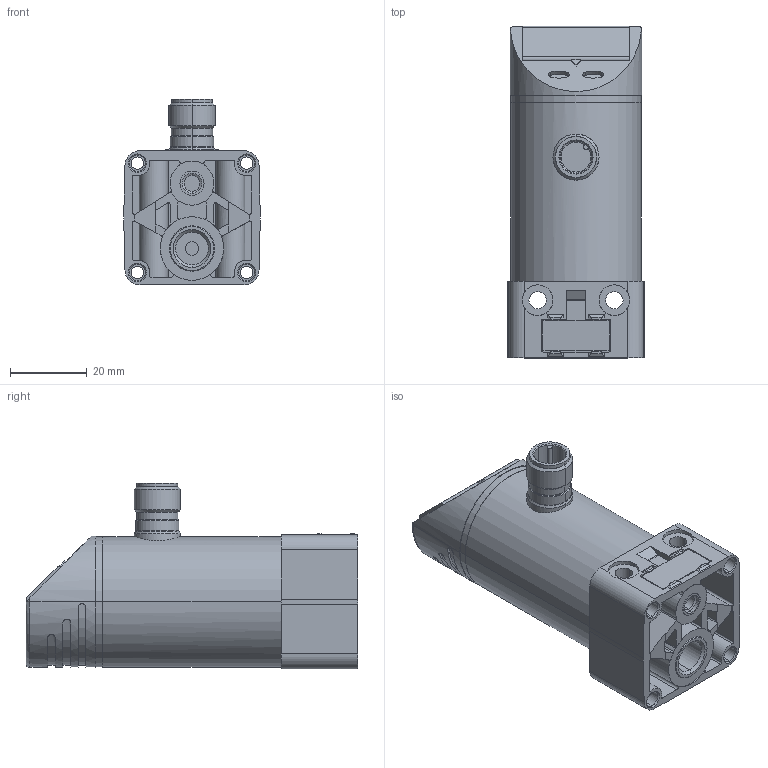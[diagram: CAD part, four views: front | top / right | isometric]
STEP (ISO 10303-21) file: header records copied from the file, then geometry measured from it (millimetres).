
FILE_DESCRIPTION( ( '' ), '1' );
FILE_NAME( '//expscmdclustefs.cadenas.external/client_exchange/iodir/jobs/output/wkb39667949_no0/STEP/pn7809_2_03_56fa68aab0d912ba39a93ed9979b71de.stp', '2011-12-01T10:52:36', ( '' ), ( '' ), ' ', ' ', ' ' );
FILE_SCHEMA( ( 'CONFIG_CONTROL_DESIGN' ) );
Length unit declared in the file: millimetre
Products named in the file (1): 1
Bounding box: 35.59 x 86.5 x 48.45 mm (x, y, z)
Volume: 74101.7 mm3; surface area: 18535.3 mm2
Topology: 1 solids, 1 shells, 429 faces, 1155 edges, 759 vertices
Faces by surface type: plane 193, cylinder 186, cone 37, torus 13
Entity records: 14227 total; most frequent: CARTESIAN_POINT 3017, DIRECTION 2441, ORIENTED_EDGE 2310, EDGE_CURVE 1155, AXIS2_PLACEMENT_3D 901, VERTEX_POINT 759, LINE 639, VECTOR 639
